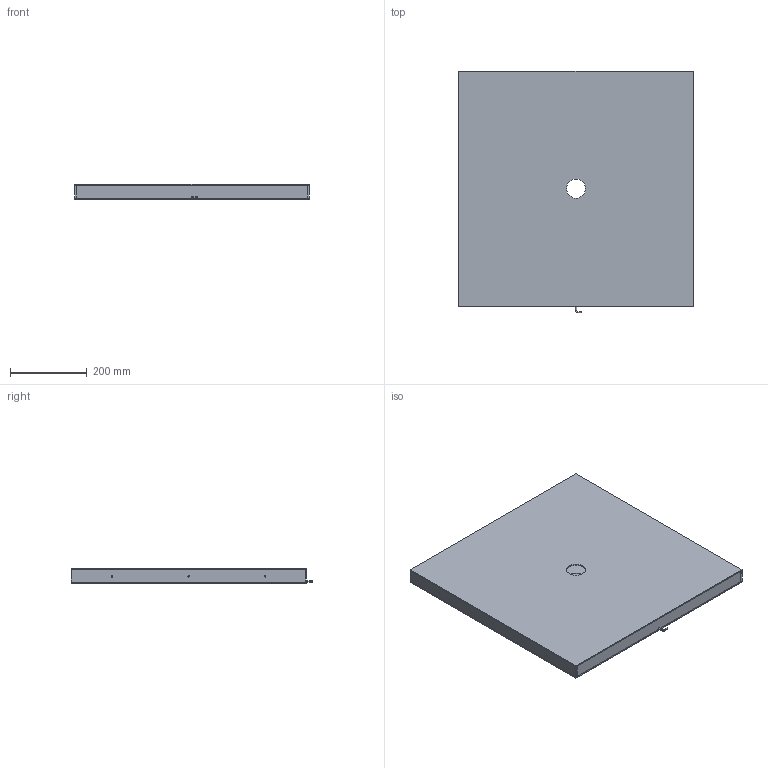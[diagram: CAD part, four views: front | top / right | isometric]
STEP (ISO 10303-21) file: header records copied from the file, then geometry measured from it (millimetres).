
FILE_DESCRIPTION (( 'STEP AP203' ), '1' );
FILE_NAME ('CRT-KFLD600600Y50-¼òÒ×3DÍ¼.STEP', '2021-11-24T03:18:34', ( 'Admin' ), ( '' ), 'SwSTEP 2.0', 'SolidWorks 2018', '' );
FILE_SCHEMA (( 'CONFIG_CONTROL_DESIGN' ));
Length unit declared in the file: millimetre
Products named in the file (1): CRT-KFLD600600Y50-潠眢3D芞
Bounding box: 614 x 631.75 x 40 mm (x, y, z)
Surface area: 1954736.9 mm2 (no closed solid volume)
Topology: 0 solids, 8 shells, 63 faces, 181 edges, 126 vertices
Faces by surface type: plane 37, cylinder 24, bspline 2
Entity records: 2182 total; most frequent: CARTESIAN_POINT 457, DIRECTION 346, ORIENTED_EDGE 292, EDGE_CURVE 181, LINE 132, VECTOR 132, VERTEX_POINT 126, AXIS2_PLACEMENT_3D 107
